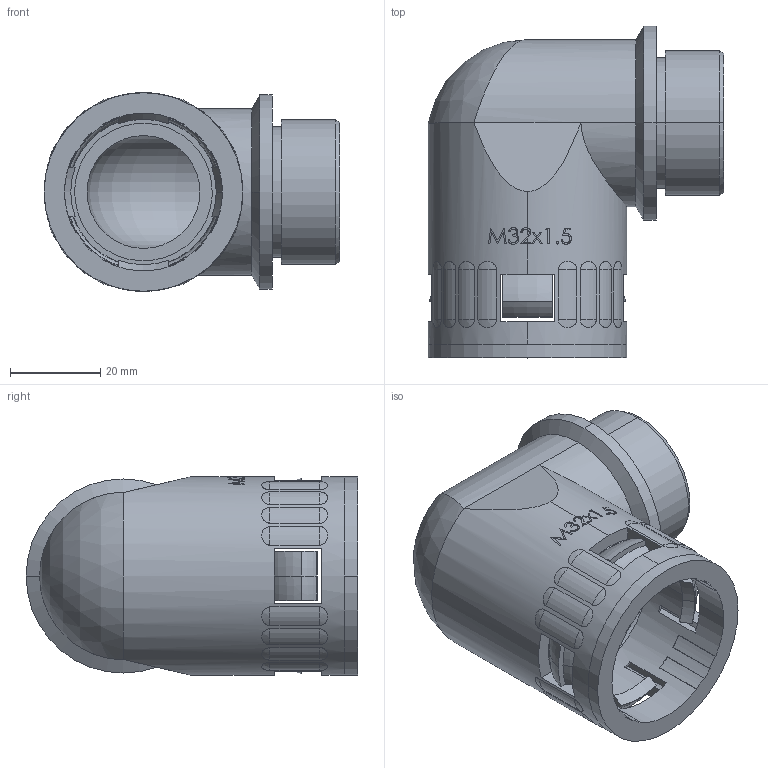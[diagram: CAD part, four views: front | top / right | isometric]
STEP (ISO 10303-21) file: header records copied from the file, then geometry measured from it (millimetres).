
FILE_DESCRIPTION (( 'STEP AP203' ), '1' );
FILE_NAME ('WQW-M32-AD34.5.STEP', '2020-03-16T01:19:25', ( '' ), ( '' ), 'SwSTEP 2.0', 'SolidWorks 2016', '' );
FILE_SCHEMA (( 'CONFIG_CONTROL_DESIGN' ));
Length unit declared in the file: millimetre
Products named in the file (4): GFD-AD34.5; NSK-AD34.5; WQW-M32-AD34.5; WQW-M32-AD34.5-01
Assembly tree (3 placements, depth 2):
  WQW-M32-AD34.5
    WQW-M32-AD34.5-01
    GFD-AD34.5
    NSK-AD34.5
Bounding box: 65.5 x 73.5 x 44 mm (x, y, z)
Volume: 57939.8 mm3; surface area: 33089.8 mm2
Topology: 5 solids, 5 shells, 362 faces, 949 edges, 611 vertices
Faces by surface type: plane 151, cylinder 71, cone 49, bspline 36, sphere 33, torus 22
Entity records: 14085 total; most frequent: CARTESIAN_POINT 4962, ORIENTED_EDGE 1892, DIRECTION 1752, EDGE_CURVE 946, AXIS2_PLACEMENT_3D 673, VERTEX_POINT 611, VECTOR 406, LINE 406
